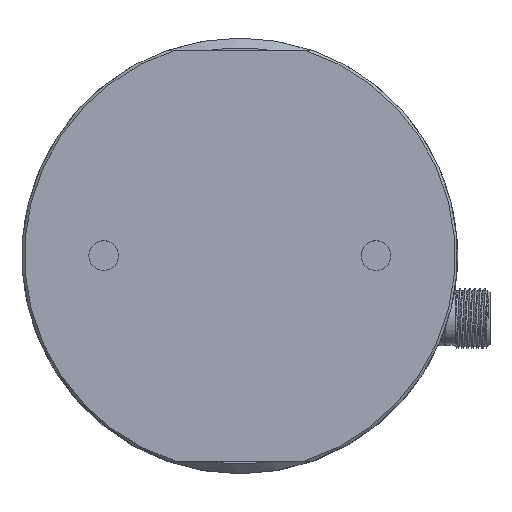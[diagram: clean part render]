
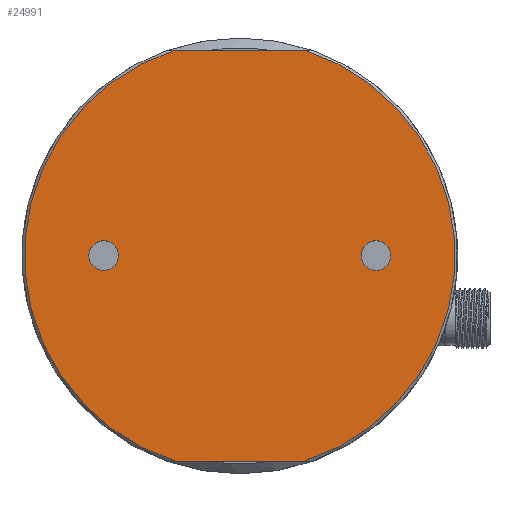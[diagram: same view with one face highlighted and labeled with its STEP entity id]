
A CAD part, top view. The second image highlights one B-rep face of the part: STEP entity #24991.
In plain terms, the highlighted planar face has unit normal (0, 0, 1).
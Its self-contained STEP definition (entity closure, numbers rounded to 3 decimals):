
#573 = DIRECTION ( 'NONE',  ( 0., 0., 1. ) ) ;
#863 = DIRECTION ( 'NONE',  ( 1., 0., 0. ) ) ;
#1072 = DIRECTION ( 'NONE',  ( 1., 0., 0. ) ) ;
#1983 = VERTEX_POINT ( 'NONE', #14599 ) ;
#2037 = FACE_BOUND ( 'NONE', #11904, .T. ) ;
#2462 = EDGE_CURVE ( 'NONE', #31735, #18110, #5260, .T. ) ;
#2545 = DIRECTION ( 'NONE',  ( 0., 0., 1. ) ) ;
#2890 = CARTESIAN_POINT ( 'NONE',  ( 27.5, 0., 45. ) ) ;
#3620 = CARTESIAN_POINT ( 'NONE',  ( 13.038, 41.5, 45. ) ) ;
#5085 = EDGE_LOOP ( 'NONE', ( #18387 ) ) ;
#5235 = CARTESIAN_POINT ( 'NONE',  ( 0., 0., 45. ) ) ;
#5260 = LINE ( 'NONE', #26143, #20688 ) ;
#6055 = AXIS2_PLACEMENT_3D ( 'NONE', #19095, #16383, #1072 ) ;
#6647 = EDGE_CURVE ( 'NONE', #27114, #27114, #31626, .T. ) ;
#7509 = ORIENTED_EDGE ( 'NONE', *, *, #30787, .F. ) ;
#8146 = ORIENTED_EDGE ( 'NONE', *, *, #18610, .T. ) ;
#8466 = CARTESIAN_POINT ( 'NONE',  ( 0., 0., 45. ) ) ;
#10163 = ORIENTED_EDGE ( 'NONE', *, *, #6647, .F. ) ;
#10398 = AXIS2_PLACEMENT_3D ( 'NONE', #5235, #2545, #20730 ) ;
#11904 = EDGE_LOOP ( 'NONE', ( #10163 ) ) ;
#12126 = CARTESIAN_POINT ( 'NONE',  ( 0., 0., 45. ) ) ;
#12288 = DIRECTION ( 'NONE',  ( 1., 0., 0. ) ) ;
#13358 = AXIS2_PLACEMENT_3D ( 'NONE', #12126, #17676, #12288 ) ;
#13528 = DIRECTION ( 'NONE',  ( 1., 0., 0. ) ) ;
#13774 = EDGE_LOOP ( 'NONE', ( #14838, #8146, #7509, #15883 ) ) ;
#14294 = VECTOR ( 'NONE', #25017, 1000. ) ;
#14599 = CARTESIAN_POINT ( 'NONE',  ( -24.5, 0., 45. ) ) ;
#14838 = ORIENTED_EDGE ( 'NONE', *, *, #2462, .F. ) ;
#15300 = CARTESIAN_POINT ( 'NONE',  ( -13.038, 41.5, 45. ) ) ;
#15484 = FACE_BOUND ( 'NONE', #5085, .T. ) ;
#15883 = ORIENTED_EDGE ( 'NONE', *, *, #32817, .T. ) ;
#16259 = VERTEX_POINT ( 'NONE', #15300 ) ;
#16383 = DIRECTION ( 'NONE',  ( 0., 0., 1. ) ) ;
#17590 = CARTESIAN_POINT ( 'NONE',  ( -32.875, 41.5, 45. ) ) ;
#17676 = DIRECTION ( 'NONE',  ( 0., 0., 1. ) ) ;
#18110 = VERTEX_POINT ( 'NONE', #20268 ) ;
#18387 = ORIENTED_EDGE ( 'NONE', *, *, #31334, .F. ) ;
#18610 = EDGE_CURVE ( 'NONE', #31735, #24836, #27606, .T. ) ;
#19095 = CARTESIAN_POINT ( 'NONE',  ( -27.5, 0., 45. ) ) ;
#20025 = CIRCLE ( 'NONE', #6055, 3. ) ;
#20080 = AXIS2_PLACEMENT_3D ( 'NONE', #8466, #573, #13528 ) ;
#20268 = CARTESIAN_POINT ( 'NONE',  ( -13.038, -41.5, 45. ) ) ;
#20688 = VECTOR ( 'NONE', #21085, 1000. ) ;
#20730 = DIRECTION ( 'NONE',  ( 1., 0., 0. ) ) ;
#21085 = DIRECTION ( 'NONE',  ( -1., 0., 0. ) ) ;
#21368 = AXIS2_PLACEMENT_3D ( 'NONE', #2890, #23269, #863 ) ;
#22737 = PLANE ( 'NONE',  #13358 ) ;
#23269 = DIRECTION ( 'NONE',  ( 0., 0., 1. ) ) ;
#24836 = VERTEX_POINT ( 'NONE', #3620 ) ;
#24991 = ADVANCED_FACE ( 'NONE', ( #2037, #15484, #25769 ), #22737, .T. ) ;
#25017 = DIRECTION ( 'NONE',  ( 1., 0., 0. ) ) ;
#25769 = FACE_OUTER_BOUND ( 'NONE', #13774, .T. ) ;
#26009 = CIRCLE ( 'NONE', #20080, 43.5 ) ;
#26143 = CARTESIAN_POINT ( 'NONE',  ( -55.114, -41.5, 45. ) ) ;
#27114 = VERTEX_POINT ( 'NONE', #28975 ) ;
#27606 = CIRCLE ( 'NONE', #10398, 43.5 ) ;
#28016 = CARTESIAN_POINT ( 'NONE',  ( 13.038, -41.5, 45. ) ) ;
#28975 = CARTESIAN_POINT ( 'NONE',  ( 30.5, 0., 45. ) ) ;
#30231 = LINE ( 'NONE', #17590, #14294 ) ;
#30787 = EDGE_CURVE ( 'NONE', #16259, #24836, #30231, .T. ) ;
#31334 = EDGE_CURVE ( 'NONE', #1983, #1983, #20025, .T. ) ;
#31626 = CIRCLE ( 'NONE', #21368, 3. ) ;
#31735 = VERTEX_POINT ( 'NONE', #28016 ) ;
#32817 = EDGE_CURVE ( 'NONE', #16259, #18110, #26009, .T. ) ;
